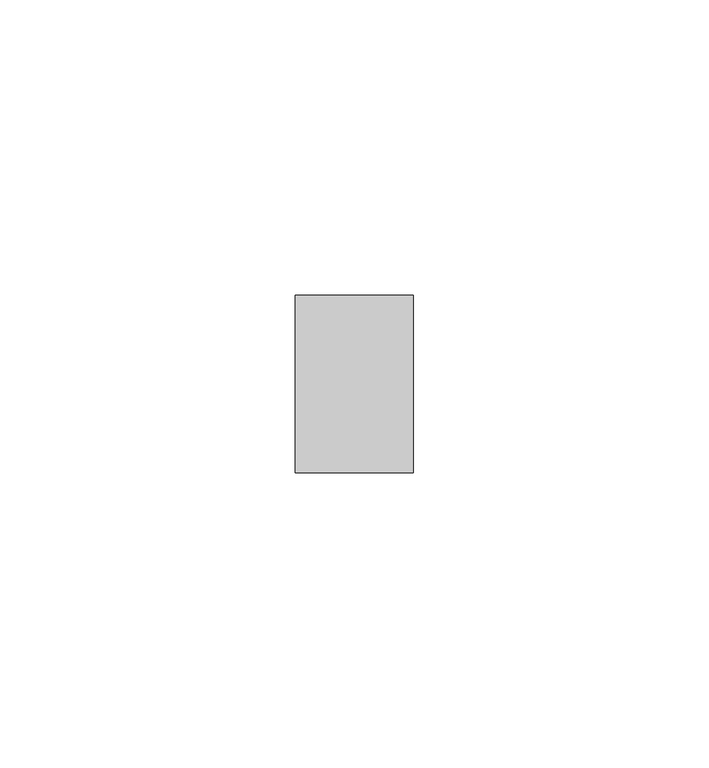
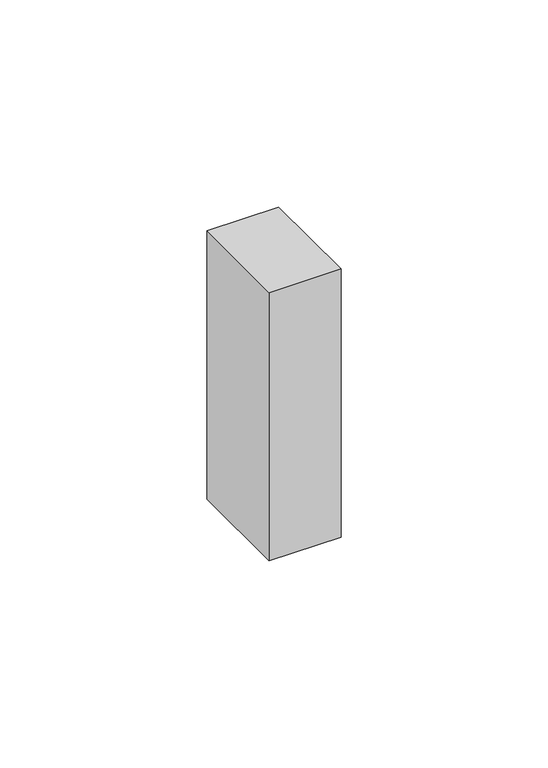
"""IFC4 building model written with IfcOpenShell, lengths in millimetres: member geometry, Прямоугольный импост : Квадрат 10 мм - Зазор между навесными плитами."""

from ifc_helpers import new_model, si_unit, frame, origin, place, context, project, spatial, polyline, outline, extrude, source, transform, mapped, element, save


def member_b7fb83dc(model_context):
    return source(origin(), model_context, "Body", "SweptSolid", [
        extrude(outline(polyline([(0.0, 15.0), (0.0, -15.0), (-20.0, -15.0), (-20.0, 15.0), (0.0, 15.0)])), frame((0.0, 0.0, -79.0), z_axis=(0.0, 0.0, 1.0), x_axis=(1.0, 0.0, 0.0)), (0.0, 0.0, 1.0), 79.0),
    ])


if __name__ == "__main__":
    model = new_model("IFC4")
    model_context = context("Model", 3, world=origin())
    ifc_project = project(units=[si_unit("LENGTHUNIT", "METRE", prefix="MILLI")], contexts=[model_context])
    site = spatial("IfcSite", under=ifc_project)
    building = spatial("IfcBuilding", under=site)
    placement = place(None, origin())
    member_shape = member_b7fb83dc(model_context)
    element("IfcMember", 1, ObjectType="Прямоугольный импост : Квадрат 10 мм - Зазор между навесными плитами", at=placement, inside=building, context=model_context, shape_type="MappedRepresentation", body=[
        mapped(member_shape, transform((0.0, 0.0, 0.0), x_axis=(1.0, 0.0, 0.0), y_axis=(0.0, 1.0, 0.0), z_axis=(0.0, 0.0, 1.0))),
    ])
    save(model, "model.ifc")
